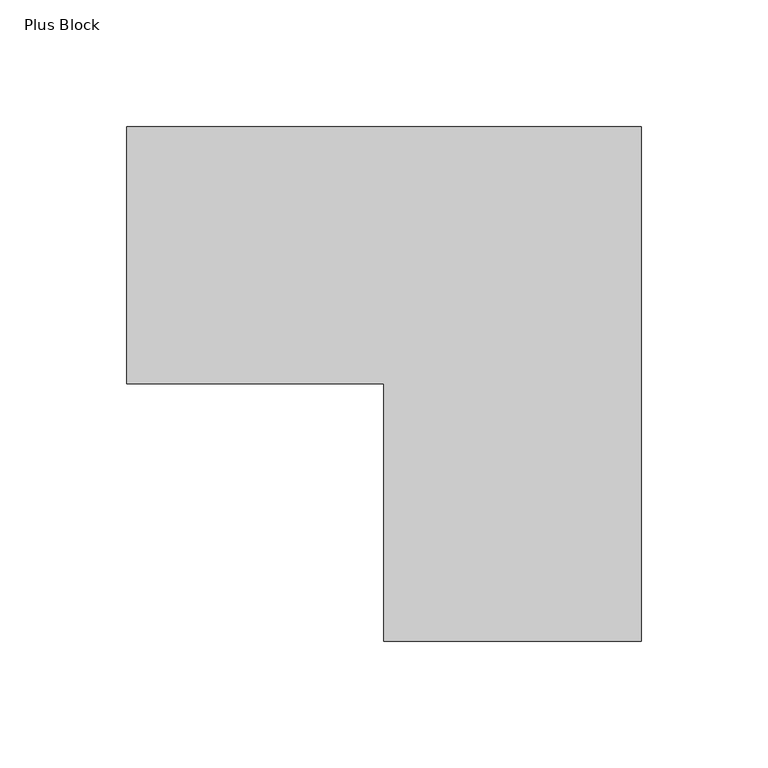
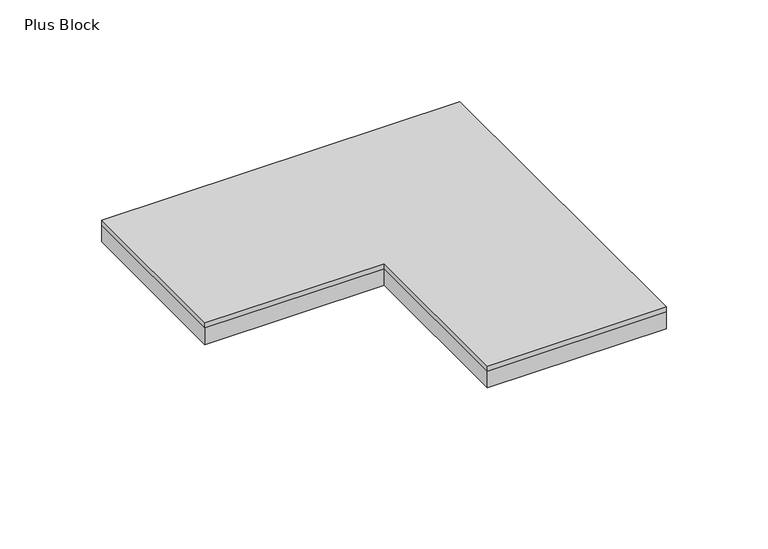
"""IFC4 building model written with IfcOpenShell, lengths in millimetres: proxy geometry, FilzFelt_Plus_Block : Plus Block."""

from ifc_helpers import new_model, si_unit, frame, origin, origin_with_axes, place, context, project, spatial, polyline, outline, extrude, source, transform, mapped, element, save


def plus_block_771cd4e4(model_context):
    return source(origin(), model_context, "Body", "SweptSolid", [
        extrude(outline(polyline([(50.8333333, -152.5), (-50.8333333, -152.5), (-50.8333333, -50.8333333), (-152.5, -50.8333333), (-152.5, 50.8333333), (50.8333333, 50.8333333), (50.8333333, -152.5)])), frame((0.0, 0.0, 10.0210937), z_axis=(0.0, 0.0, 1.0), x_axis=(1.0, 0.0, 0.0)), (0.0, 0.0, 1.0), 2.9765625),
        extrude(outline(polyline([(-152.5, -50.8333333), (-152.5, 50.8333333), (50.8333333, 50.8333333), (50.8333333, -152.5), (-50.8333333, -152.5), (-50.8333333, -50.8333333), (-152.5, -50.8333333)])), origin_with_axes(), (0.0, 0.0, 1.0), 10.0210938),
    ])


if __name__ == "__main__":
    model = new_model("IFC4")
    model_context = context("Model", 3, world=origin())
    ifc_project = project(units=[si_unit("LENGTHUNIT", "METRE", prefix="MILLI")], contexts=[model_context])
    site = spatial("IfcSite", under=ifc_project)
    building = spatial("IfcBuilding", under=site)
    placement = place(None, origin())
    plus_block_shape = plus_block_771cd4e4(model_context)
    element("IfcBuildingElementProxy", 1, Name="FilzFelt_Plus_Block : Plus Block", ObjectType="FilzFelt_Plus_Block : Plus Block", at=placement, inside=building, context=model_context, shape_type="MappedRepresentation", body=[
        mapped(plus_block_shape, transform((0.0, 0.0, 0.0), x_axis=(1.0, 0.0, 0.0), y_axis=(0.0, 1.0, 0.0), z_axis=(0.0, 0.0, 1.0))),
    ])
    save(model, "model.ifc")
